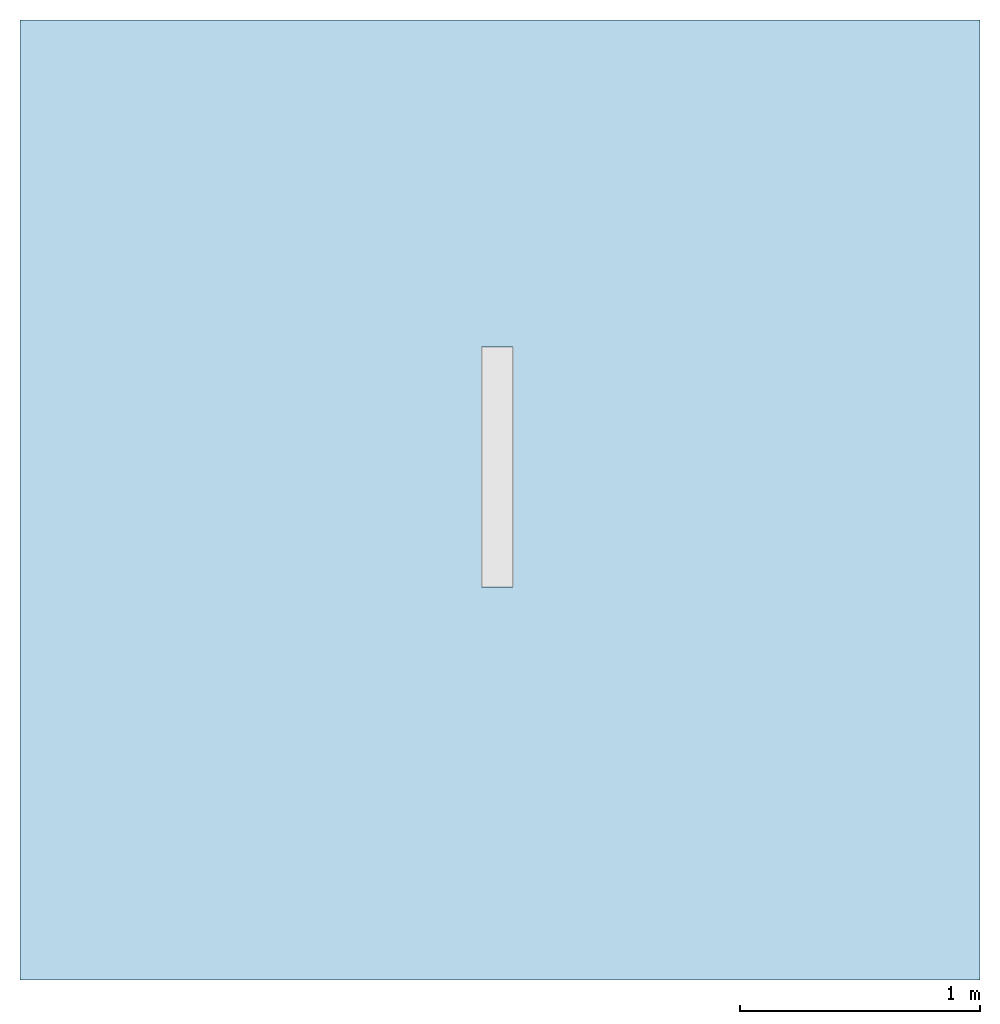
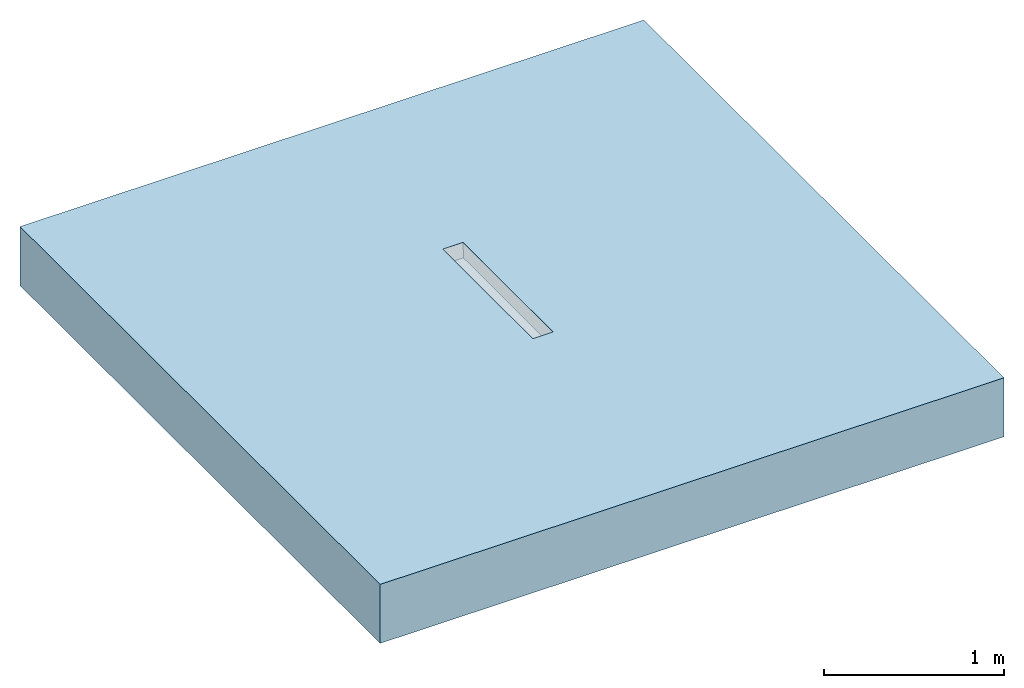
# One storey, incomplete: 1 slab, 1 opening.
"""IFC2X3 building model written with IfcOpenShell, lengths in millimetres."""

from ifc_helpers import new_model, entity, si_unit, converted_unit, derived_unit, direction, frame, frame_2d, origin, place, context, subcontext, project, spatial, polyline, rectangle, outline, extrude, material, layer, layer_set, layer_usage, element, save


model = new_model("IFC2X3")

# Units and contexts
model_context = context("Model", 3, precision=1e-05, world=origin(), true_north=direction((2.0, 6.12303176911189e-17, 1.0)))
context_of_model = context(None, 3, precision=1e-05, world=origin(), true_north=direction((2.0, 6.12303176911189e-17, 1.0)))
body_context = subcontext(model_context, "Body", "Model", "MODEL_VIEW")
ifc_project = project(units=[si_unit("LENGTHUNIT", "METRE", prefix="MILLI"), si_unit("AREAUNIT", "SQUARE_METRE"), si_unit("VOLUMEUNIT", "CUBIC_METRE"), converted_unit("PLANEANGLEUNIT", "DEGREE", entity("IfcRatioMeasure", 0.0174532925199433), si_unit("PLANEANGLEUNIT", "RADIAN"), dimensions=[0, 0, 0, 0, 0, 0, 0]), si_unit("MASSUNIT", "GRAM", prefix="KILO"), si_unit("TIMEUNIT", "SECOND"), si_unit("THERMODYNAMICTEMPERATUREUNIT", "KELVIN"), derived_unit("THERMALTRANSMITTANCEUNIT", [(si_unit("MASSUNIT", "GRAM", prefix="KILO"), 1), (si_unit("THERMODYNAMICTEMPERATUREUNIT", "KELVIN"), -1), (si_unit("TIMEUNIT", "SECOND"), -3)]), derived_unit("VOLUMETRICFLOWRATEUNIT", [(si_unit("LENGTHUNIT", "METRE"), 3), (si_unit("TIMEUNIT", "SECOND"), -1)]), si_unit("POWERUNIT", "WATT")], contexts=[model_context, context_of_model])

# Site, building, storey
site_placement = place(None, origin())
site = spatial("IfcSite", under=ifc_project, at=site_placement, Name="Default", CompositionType="ELEMENT")
building_placement = place(site_placement, origin())
building = spatial("IfcBuilding", under=site, at=building_placement, CompositionType="ELEMENT")
storey_placement = place(building_placement, origin())
storey = spatial("IfcBuildingStorey", under=building, at=storey_placement, Name="Level 1", CompositionType="ELEMENT", Elevation=0.0)

# Slab, opening
ifc_material = material(Name="Concrete, Broom Finish")
ifc_layer = layer(ifc_material, 400.0)
ifc_layer_set = layer_set([ifc_layer], Name="Floor:Generic Floor - 400mm")
ifc_layer_usage = layer_usage(ifc_layer_set, "AXIS3", "POSITIVE", 0.0)
slab_placement = place(storey_placement, origin())
slab = element("IfcSlab", 1, at=slab_placement, inside=storey, material=ifc_layer_usage, Name="Floor:Generic Floor - 400mm", ObjectType="Floor:Generic Floor - 400mm", PredefinedType="FLOOR", context=body_context, shape_type="SweptSolid", body=[
    extrude(rectangle(XDim=4000.0, YDim=4000.0, at=frame_2d((0.0, 0.0), x_axis=(0.0, -1.0))), frame((-42.176138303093, 2.05004766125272, 0.0), z_axis=(0.0, 0.0, -1.0), x_axis=(-1.0, 0.0, 0.0)), (0.0, 0.0, 1.0), 400.0),
])
opening_placement = place(slab_placement, origin())
element("IfcOpeningElement", 2, at=opening_placement, cuts=slab, ObjectType="Recess", context=body_context, shape_type="SweptSolid", body=[
    extrude(outline(polyline([(-3.75000000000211, -67.0), (56.2499999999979, -67.0), (56.2499999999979, 67.0), (-3.75000000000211, 67.0), (-3.74999999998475, 65.0), (-48.75000000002, 65.0), (-48.7499999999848, -65.0), (-3.75000000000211, -65.0), (-3.75000000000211, -67.0)])), frame((-53.5650271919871, -360.797174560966, -48.7500000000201), z_axis=(0.0, 1.0, 0.0), x_axis=(0.0, 0.0, -1.0)), (0.0, 0.0, 1.0), 1000.0),
])

save(model, "model.ifc")
